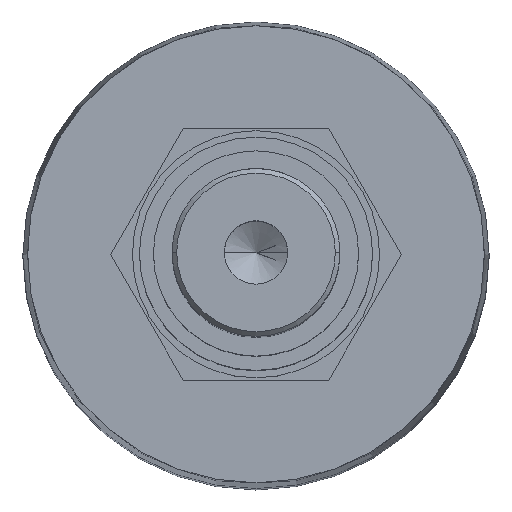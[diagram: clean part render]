
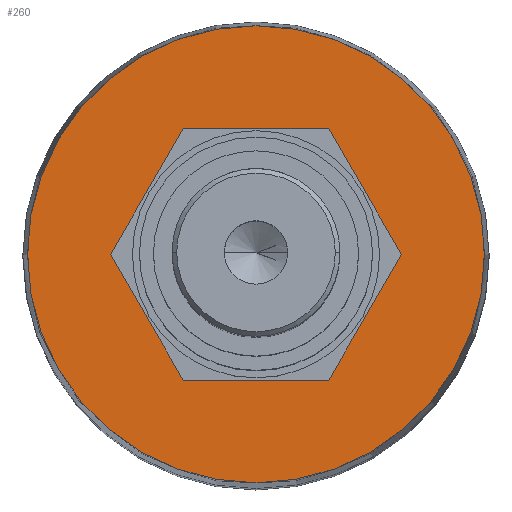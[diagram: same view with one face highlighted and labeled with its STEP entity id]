
A CAD part, top view. The second image highlights one B-rep face of the part: STEP entity #260.
In plain terms, the highlighted planar face has unit normal (0, 0, 1).
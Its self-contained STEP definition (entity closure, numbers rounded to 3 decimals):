
#260 = ADVANCED_FACE ( 'NONE', ( #1032, #1031 ), #1025, .T. ) ;
#261 = EDGE_CURVE ( 'NONE', #298, #296, #961, .T. ) ;
#262 = EDGE_LOOP ( 'NONE', ( #302, #295, #289, #292, #284, #287 ) ) ;
#269 = ORIENTED_EDGE ( 'NONE', *, *, #493, .T. ) ;
#271 = VERTEX_POINT ( 'NONE', #1092 ) ;
#275 = EDGE_CURVE ( 'NONE', #296, #271, #1073, .T. ) ;
#276 = VERTEX_POINT ( 'NONE', #1099 ) ;
#279 = EDGE_CURVE ( 'NONE', #304, #276, #1081, .T. ) ;
#284 = ORIENTED_EDGE ( 'NONE', *, *, #286, .F. ) ;
#285 = EDGE_CURVE ( 'NONE', #276, #297, #1077, .T. ) ;
#286 = EDGE_CURVE ( 'NONE', #297, #298, #1131, .T. ) ;
#287 = ORIENTED_EDGE ( 'NONE', *, *, #285, .F. ) ;
#288 = EDGE_LOOP ( 'NONE', ( #269, #496 ) ) ;
#289 = ORIENTED_EDGE ( 'NONE', *, *, #275, .F. ) ;
#292 = ORIENTED_EDGE ( 'NONE', *, *, #261, .F. ) ;
#295 = ORIENTED_EDGE ( 'NONE', *, *, #303, .F. ) ;
#296 = VERTEX_POINT ( 'NONE', #1118 ) ;
#297 = VERTEX_POINT ( 'NONE', #1043 ) ;
#298 = VERTEX_POINT ( 'NONE', #1126 ) ;
#302 = ORIENTED_EDGE ( 'NONE', *, *, #279, .F. ) ;
#303 = EDGE_CURVE ( 'NONE', #271, #304, #1048, .T. ) ;
#304 = VERTEX_POINT ( 'NONE', #1057 ) ;
#386 = VERTEX_POINT ( 'NONE', #1493 ) ;
#399 = EDGE_CURVE ( 'NONE', #386, #421, #1481, .T. ) ;
#421 = VERTEX_POINT ( 'NONE', #1522 ) ;
#493 = EDGE_CURVE ( 'NONE', #421, #386, #1189, .T. ) ;
#496 = ORIENTED_EDGE ( 'NONE', *, *, #399, .T. ) ;
#803 = VECTOR ( 'NONE', #824, 1000. ) ;
#824 = DIRECTION ( 'NONE',  ( 1., 0., 0. ) ) ;
#961 = LINE ( 'NONE', #964, #803 ) ;
#964 = CARTESIAN_POINT ( 'NONE',  ( -7.794, -13.5, 104.5 ) ) ;
#1019 = DIRECTION ( 'NONE',  ( 1., 0., 0. ) ) ;
#1020 = DIRECTION ( 'NONE',  ( 0., 0., 1. ) ) ;
#1021 = CARTESIAN_POINT ( 'NONE',  ( 0., 0., 104.5 ) ) ;
#1025 = PLANE ( 'NONE',  #1029 ) ;
#1029 = AXIS2_PLACEMENT_3D ( 'NONE', #1021, #1020, #1019 ) ;
#1031 = FACE_OUTER_BOUND ( 'NONE', #288, .T. ) ;
#1032 = FACE_BOUND ( 'NONE', #262, .T. ) ;
#1043 = CARTESIAN_POINT ( 'NONE',  ( -15.588, 0., 104.5 ) ) ;
#1046 = VECTOR ( 'NONE', #1069, 1000. ) ;
#1047 = CARTESIAN_POINT ( 'NONE',  ( 15.588, 0., 104.5 ) ) ;
#1048 = LINE ( 'NONE', #1047, #1046 ) ;
#1057 = CARTESIAN_POINT ( 'NONE',  ( 7.794, 13.5, 104.5 ) ) ;
#1069 = DIRECTION ( 'NONE',  ( -0.5, 0.866, 0. ) ) ;
#1070 = DIRECTION ( 'NONE',  ( 0.5, 0.866, 0. ) ) ;
#1071 = VECTOR ( 'NONE', #1070, 1000. ) ;
#1072 = CARTESIAN_POINT ( 'NONE',  ( 7.794, -13.5, 104.5 ) ) ;
#1073 = LINE ( 'NONE', #1072, #1071 ) ;
#1074 = VECTOR ( 'NONE', #1119, 1000. ) ;
#1075 = CARTESIAN_POINT ( 'NONE',  ( -7.794, 13.5, 104.5 ) ) ;
#1077 = LINE ( 'NONE', #1075, #1074 ) ;
#1078 = DIRECTION ( 'NONE',  ( -1., 0., 0. ) ) ;
#1079 = VECTOR ( 'NONE', #1078, 1000. ) ;
#1080 = CARTESIAN_POINT ( 'NONE',  ( 7.794, 13.5, 104.5 ) ) ;
#1081 = LINE ( 'NONE', #1080, #1079 ) ;
#1092 = CARTESIAN_POINT ( 'NONE',  ( 15.588, 0., 104.5 ) ) ;
#1099 = CARTESIAN_POINT ( 'NONE',  ( -7.794, 13.5, 104.5 ) ) ;
#1118 = CARTESIAN_POINT ( 'NONE',  ( 7.794, -13.5, 104.5 ) ) ;
#1119 = DIRECTION ( 'NONE',  ( -0.5, -0.866, 0. ) ) ;
#1126 = CARTESIAN_POINT ( 'NONE',  ( -7.794, -13.5, 104.5 ) ) ;
#1128 = DIRECTION ( 'NONE',  ( 0.5, -0.866, 0. ) ) ;
#1129 = VECTOR ( 'NONE', #1128, 1000. ) ;
#1130 = CARTESIAN_POINT ( 'NONE',  ( -15.588, 0., 104.5 ) ) ;
#1131 = LINE ( 'NONE', #1130, #1129 ) ;
#1187 = AXIS2_PLACEMENT_3D ( 'NONE', #1200, #1199, #1198 ) ;
#1189 = CIRCLE ( 'NONE', #1187, 24.5 ) ;
#1198 = DIRECTION ( 'NONE',  ( 1., 0., 0. ) ) ;
#1199 = DIRECTION ( 'NONE',  ( 0., 0., 1. ) ) ;
#1200 = CARTESIAN_POINT ( 'NONE',  ( 0., 0., 104.5 ) ) ;
#1455 = DIRECTION ( 'NONE',  ( 1., 0., 0. ) ) ;
#1456 = DIRECTION ( 'NONE',  ( 0., 0., 1. ) ) ;
#1457 = CARTESIAN_POINT ( 'NONE',  ( 0., 0., 104.5 ) ) ;
#1462 = AXIS2_PLACEMENT_3D ( 'NONE', #1457, #1456, #1455 ) ;
#1481 = CIRCLE ( 'NONE', #1462, 24.5 ) ;
#1493 = CARTESIAN_POINT ( 'NONE',  ( 24.5, 0., 104.5 ) ) ;
#1522 = CARTESIAN_POINT ( 'NONE',  ( -24.5, 0., 104.5 ) ) ;
